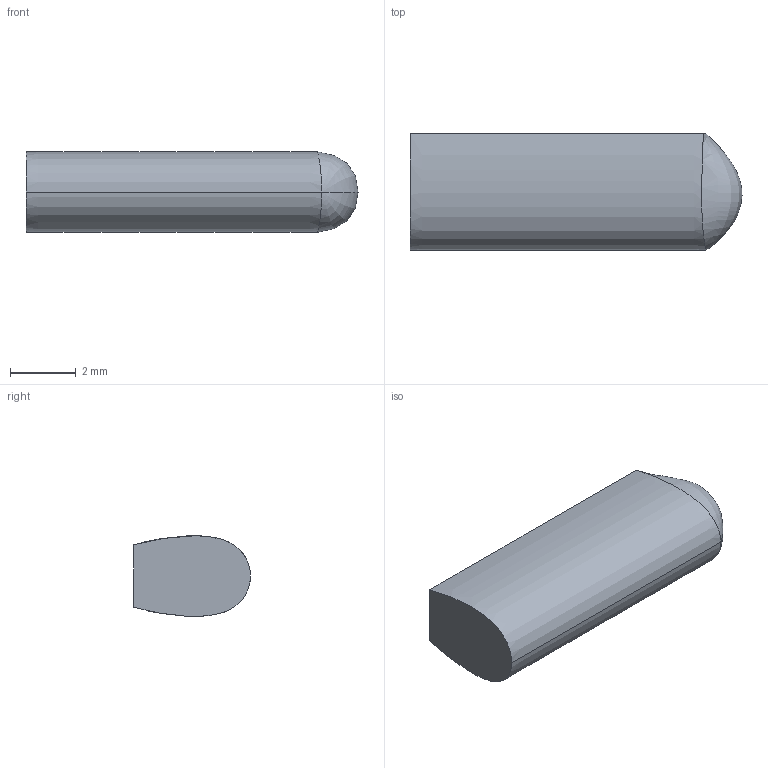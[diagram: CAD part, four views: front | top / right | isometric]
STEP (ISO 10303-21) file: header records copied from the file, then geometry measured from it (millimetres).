
FILE_DESCRIPTION((''),'1');
FILE_NAME('ELEK-ST12-14R','2001-03-30T',('rgoetz'),(''),'PRO/ENGINEER BY PARAMETRIC TECHNOLOGY CORPORATION, 2000350','PRO/ENGINEER BY PARAMETRIC TECHNOLOGY CORPORATION, 2000350','');
FILE_SCHEMA(('CONFIG_CONTROL_DESIGN'));
Length unit declared in the file: millimetre
Products named in the file (1): ELEK-ST12-14R
Bounding box: 10.1 x 3.55 x 2.45 mm (x, y, z)
Volume: 72.8 mm3; surface area: 112.2 mm2
Topology: 1 solids, 1 shells, 6 faces, 13 edges, 7 vertices
Faces by surface type: plane 2, extrusion 2, bspline 2
Entity records: 634 total; most frequent: CARTESIAN_POINT 493, ORIENTED_EDGE 22, EDGE_CURVE 11, DIRECTION 10, B_SPLINE_CURVE_WITH_KNOTS 9, VERTEX_POINT 7, VECTOR 6, EDGE_LOOP 6
